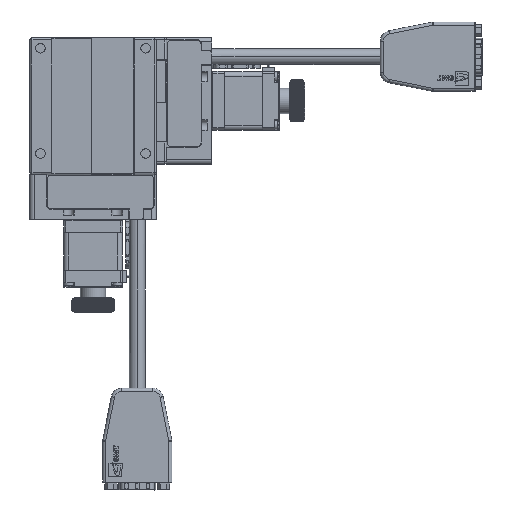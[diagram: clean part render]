
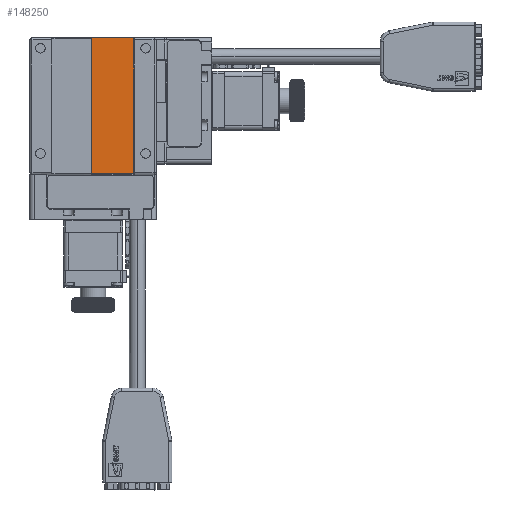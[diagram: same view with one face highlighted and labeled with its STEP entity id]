
A CAD part, front view. The second image highlights one B-rep face of the part: STEP entity #148250.
In plain terms, the highlighted planar face has unit normal (0, -1, 0).
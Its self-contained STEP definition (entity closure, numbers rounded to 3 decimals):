
#1717 = CARTESIAN_POINT ( 'NONE',  ( 19.3, 0.3, -32.1 ) ) ;
#2717 = VECTOR ( 'NONE', #62583, 1000. ) ;
#8708 = FACE_OUTER_BOUND ( 'NONE', #125817, .T. ) ;
#10074 = DIRECTION ( 'NONE',  ( -1., 0., 0. ) ) ;
#24319 = CARTESIAN_POINT ( 'NONE',  ( 19.3, 0.3, 32.5 ) ) ;
#28932 = CARTESIAN_POINT ( 'NONE',  ( -0.7, 0.3, 32.5 ) ) ;
#30920 = EDGE_CURVE ( 'NONE', #80659, #80259, #145045, .T. ) ;
#39779 = VECTOR ( 'NONE', #10074, 1000. ) ;
#43372 = VECTOR ( 'NONE', #79073, 1000. ) ;
#43388 = CARTESIAN_POINT ( 'NONE',  ( 19.3, 0.3, -32.1 ) ) ;
#48255 = CARTESIAN_POINT ( 'NONE',  ( 19.3, 0.3, -32.1 ) ) ;
#50454 = CARTESIAN_POINT ( 'NONE',  ( 19.3, 0.3, 32.5 ) ) ;
#52780 = DIRECTION ( 'NONE',  ( 0., 0., -1. ) ) ;
#62583 = DIRECTION ( 'NONE',  ( 1., 0., 0. ) ) ;
#67907 = VECTOR ( 'NONE', #52780, 1000. ) ;
#71450 = PLANE ( 'NONE',  #76945 ) ;
#71877 = CARTESIAN_POINT ( 'NONE',  ( -0.7, 0.3, -32.1 ) ) ;
#76945 = AXIS2_PLACEMENT_3D ( 'NONE', #43388, #171476, #86337 ) ;
#79073 = DIRECTION ( 'NONE',  ( 0., 0., 1. ) ) ;
#80259 = VERTEX_POINT ( 'NONE', #1717 ) ;
#80659 = VERTEX_POINT ( 'NONE', #71877 ) ;
#86337 = DIRECTION ( 'NONE',  ( 1., 0., 0. ) ) ;
#92594 = ORIENTED_EDGE ( 'NONE', *, *, #30920, .T. ) ;
#96537 = CARTESIAN_POINT ( 'NONE',  ( 19.3, 0.3, 32.5 ) ) ;
#100868 = VERTEX_POINT ( 'NONE', #28932 ) ;
#106785 = EDGE_CURVE ( 'NONE', #80259, #144714, #123447, .T. ) ;
#113095 = ORIENTED_EDGE ( 'NONE', *, *, #125040, .T. ) ;
#115409 = LINE ( 'NONE', #24319, #39779 ) ;
#123447 = LINE ( 'NONE', #50454, #43372 ) ;
#125040 = EDGE_CURVE ( 'NONE', #144714, #100868, #115409, .T. ) ;
#125817 = EDGE_LOOP ( 'NONE', ( #180757, #113095, #143837, #92594 ) ) ;
#137919 = CARTESIAN_POINT ( 'NONE',  ( -0.7, 0.3, 32.5 ) ) ;
#143837 = ORIENTED_EDGE ( 'NONE', *, *, #155920, .T. ) ;
#144714 = VERTEX_POINT ( 'NONE', #96537 ) ;
#145045 = LINE ( 'NONE', #48255, #2717 ) ;
#148250 = ADVANCED_FACE ( 'NONE', ( #8708 ), #71450, .F. ) ;
#155920 = EDGE_CURVE ( 'NONE', #100868, #80659, #172398, .T. ) ;
#171476 = DIRECTION ( 'NONE',  ( 0., 1., 0. ) ) ;
#172398 = LINE ( 'NONE', #137919, #67907 ) ;
#180757 = ORIENTED_EDGE ( 'NONE', *, *, #106785, .T. ) ;
